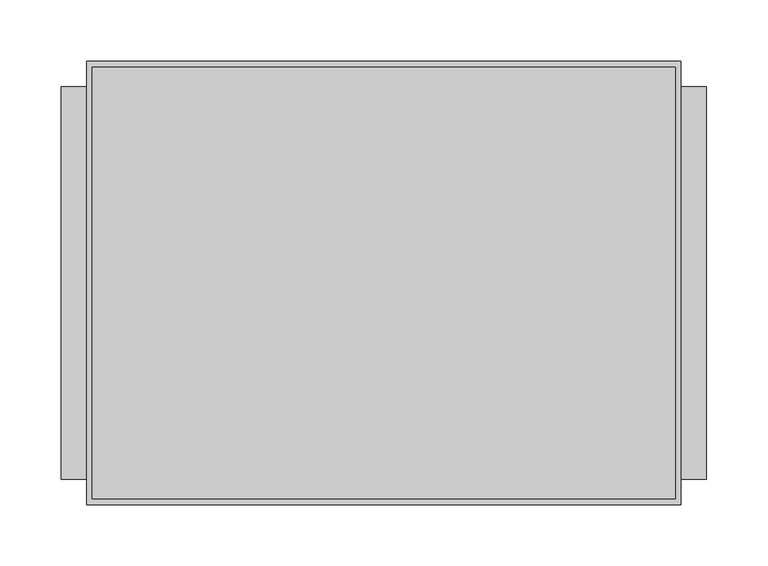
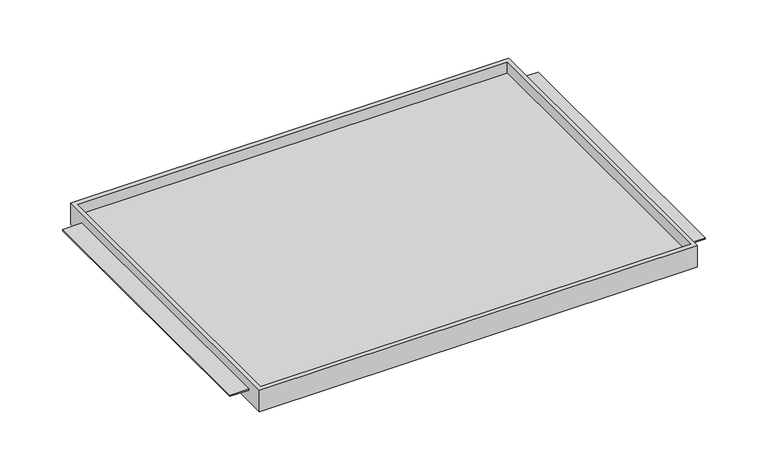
"""IFC4 building model written with IfcOpenShell, lengths in millimetres: furniture geometry."""

from ifc_helpers import new_model, si_unit, origin, place, context, project, spatial, faceted_brep, source, transform, mapped, element, save


def furniture_0eaea0f9(model_context):
    return source(origin(), model_context, "Body", "Brep", [
        faceted_brep([(-242.7689646, -180.975, 1511.3), (242.7689646, -180.975, 1511.3), (242.7689646, -180.975, 1536.7), (-242.7689646, -180.975, 1536.7), (-242.7689646, 180.975, 1511.3), (-242.7689646, 180.975, 1536.7), (242.7689646, 180.975, 1536.7), (242.7689646, 180.975, 1511.3), (242.7689646, -160.3374879, 1525.6002), (242.7689646, 160.3374879, 1525.6002), (242.7689646, 160.3374879, 1524.0), (242.7689646, -160.3374879, 1524.0), (238.125, -176.2125, 1536.7), (-238.125, -176.2125, 1536.7), (-238.125, 175.91278, 1536.7), (238.125, 175.91278, 1536.7), (-242.7689646, 160.3374879, 1525.6002), (-242.7689646, -160.3374879, 1525.6002), (-242.7689646, -160.3374879, 1524.0), (-242.7689646, 160.3374879, 1524.0), (-238.125, -176.2125, 1524.0), (238.125, -176.2125, 1524.0), (238.125, 175.91278, 1524.0), (-238.125, 175.91278, 1524.0), (-263.525, 160.3374879, 1525.6002), (-263.525, -160.3374879, 1525.6002), (263.525, -160.3374879, 1525.6002), (263.525, 160.3374879, 1525.6002), (-263.525, -160.3374879, 1524.0), (-263.525, 160.3374879, 1524.0), (263.525, -160.3374879, 1524.0), (263.525, 160.3374879, 1524.0)], [[[0, 1, 2, 3]], [[4, 5, 6, 7]], [[1, 0, 4, 7]], [[2, 1, 7, 6], [8, 9, 10, 11]], [[3, 2, 6, 5], [12, 13, 14, 15]], [[0, 3, 5, 4], [16, 17, 18, 19]], [[20, 21, 22, 23]], [[21, 20, 13, 12]], [[22, 21, 12, 15]], [[23, 22, 15, 14]], [[20, 23, 14, 13]], [[16, 24, 25, 17]], [[26, 27, 9, 8]], [[18, 28, 29, 19]], [[30, 11, 10, 31]], [[24, 16, 19, 29]], [[25, 24, 29, 28]], [[17, 25, 28, 18]], [[27, 26, 30, 31]], [[9, 27, 31, 10]], [[26, 8, 11, 30]]]),
    ])


if __name__ == "__main__":
    model = new_model("IFC4")
    model_context = context("Model", 3, world=origin())
    ifc_project = project(units=[si_unit("LENGTHUNIT", "METRE", prefix="MILLI")], contexts=[model_context])
    site = spatial("IfcSite", under=ifc_project)
    building = spatial("IfcBuilding", under=site)
    placement = place(None, origin())
    furniture_shape = furniture_0eaea0f9(model_context)
    element("IfcFurniture", 1, ObjectType="HermanMiller_CoStruc_CO203_CTrayShelf : 14\"D x 20\"W", at=placement, inside=building, context=model_context, shape_type="MappedRepresentation", body=[
        mapped(furniture_shape, transform((0.0, 0.0, 0.0), x_axis=(1.0, 0.0, 0.0), y_axis=(0.0, 1.0, 0.0), z_axis=(0.0, 0.0, 1.0))),
    ])
    save(model, "model.ifc")
